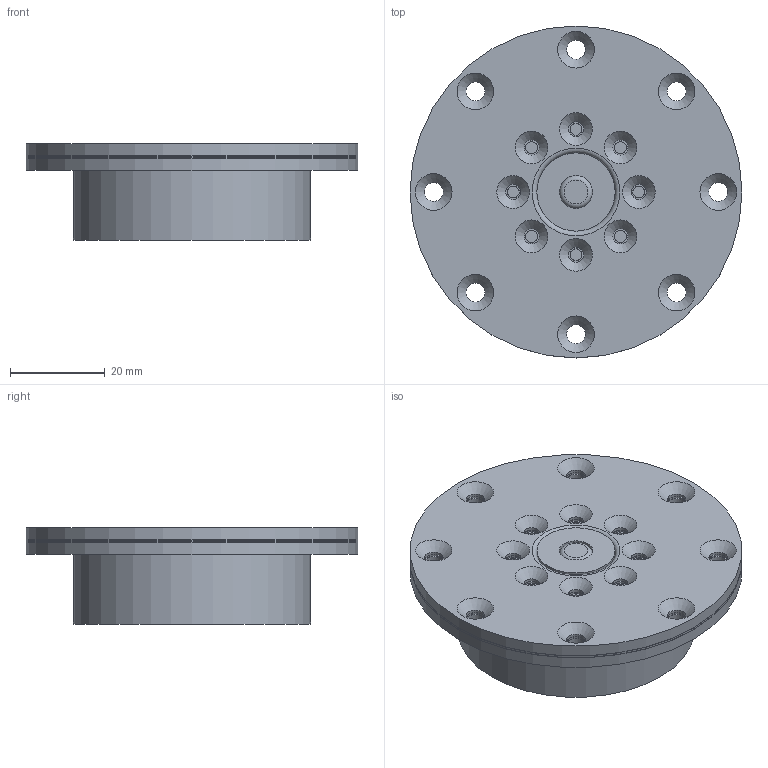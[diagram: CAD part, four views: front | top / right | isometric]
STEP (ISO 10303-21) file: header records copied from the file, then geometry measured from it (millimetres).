
FILE_DESCRIPTION(('HOOPS Exchange Step'),'2;1');
FILE_NAME('C:\Users\Uli\Desktop\ESD_HV_Generator\Normen\CAD\ESD_Target.stp','2026-10-16T16:55:34+02:00',('Uli'),('Unknown organisation'),'HOOPS Exchange 2025.7','HOOPS Exchange','Unknown authorisation');
FILE_SCHEMA( ('AUTOMOTIVE_DESIGN { 1 0 10303 214 1 1 1 1 }') );
Length unit declared in the file: metre
Products named in the file (31): ESD_Target; R_0805_2012Metric; ESDB301_soldermask; ESDB301_PCB; ESD_Target_0805_Radial_1mm_Loetstopp
Assembly tree (54 placements, depth 4):
  ESD_Target
    ESD_Target
    ESD_Target_0805_Radial_1mm_Loetstopp
      R_0805_2012Metric
        R_0805_2012Metric
      R_0805_2012Metric
        R_0805_2012Metric
      R_0805_2012Metric
        R_0805_2012Metric
      R_0805_2012Metric
        R_0805_2012Metric
      R_0805_2012Metric
        R_0805_2012Metric
      R_0805_2012Metric
        R_0805_2012Metric
      R_0805_2012Metric
        R_0805_2012Metric
      R_0805_2012Metric
        R_0805_2012Metric
      R_0805_2012Metric
        R_0805_2012Metric
      R_0805_2012Metric
        R_0805_2012Metric
      R_0805_2012Metric
        R_0805_2012Metric
      R_0805_2012Metric
        R_0805_2012Metric
      R_0805_2012Metric
        R_0805_2012Metric
      R_0805_2012Metric
        R_0805_2012Metric
      R_0805_2012Metric
        R_0805_2012Metric
      R_0805_2012Metric
        R_0805_2012Metric
      R_0805_2012Metric
        R_0805_2012Metric
      R_0805_2012Metric
        R_0805_2012Metric
      R_0805_2012Metric
        R_0805_2012Metric
      R_0805_2012Metric
        R_0805_2012Metric
      R_0805_2012Metric
        R_0805_2012Metric
      R_0805_2012Metric
        R_0805_2012Metric
      R_0805_2012Metric
        R_0805_2012Metric
      R_0805_2012Metric
        R_0805_2012Metric
      R_0805_2012Metric
        R_0805_2012Metric
      ESDB301_soldermask
      ESDB301_PCB
Bounding box: 70 x 70 x 20.25 mm (x, y, z)
Surface area: 29386.6 mm2 (no closed solid volume)
Topology: 0 solids, 33 shells, 827 faces, 2518 edges, 1774 vertices
Faces by surface type: cylinder 471, plane 333, cone 21, torus 2
Full cylindrical faces by diameter (mm): 0.3 x200, 1.3 x1, 2.5 x13, 2.8 x1, 3.2 x16, 3.3 x1, 4 x25, 5 x2, 7 x2, 10 x1, 10.5 x1, 16.5 x4, 50 x1, 70 x3
Entity records: 15486 total; most frequent: DIRECTION 2693, CARTESIAN_POINT 2534, ORIENTED_EDGE 2218, EDGE_CURVE 1222, AXIS2_PLACEMENT_3D 1069, VERTEX_POINT 910, EDGE_LOOP 856, FACE_BOUND 856
